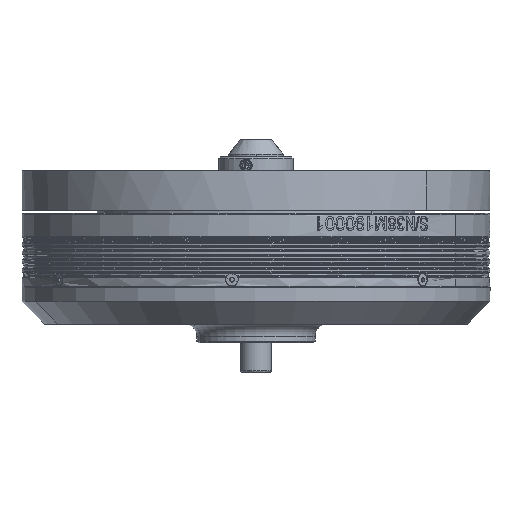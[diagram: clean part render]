
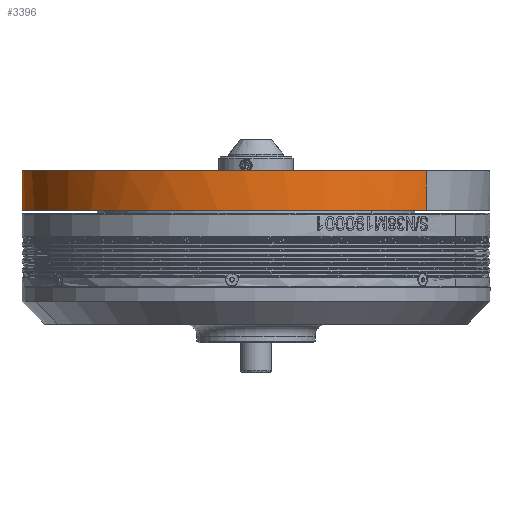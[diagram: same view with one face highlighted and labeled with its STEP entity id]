
A CAD part, left-side view. The second image highlights one B-rep face of the part: STEP entity #3396.
In plain terms, the highlighted cylindrical face has radius 75.1 mm (diameter 150.2 mm), a partial arc.
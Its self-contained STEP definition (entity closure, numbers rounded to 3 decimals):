
#1603 = LINE ( 'NONE', #69926, #39798 ) ;
#3396 = ADVANCED_FACE ( 'NONE', ( #105312 ), #21408, .T. ) ;
#3648 = ORIENTED_EDGE ( 'NONE', *, *, #93333, .T. ) ;
#4548 = CARTESIAN_POINT ( 'NONE',  ( 24.198, -71.264, 14. ) ) ;
#12319 = CARTESIAN_POINT ( 'NONE',  ( 72.698, -19.472, 14. ) ) ;
#12721 = CARTESIAN_POINT ( 'NONE',  ( 45.81, -59.713, 14. ) ) ;
#13943 = CARTESIAN_POINT ( 'NONE',  ( 19.472, -72.698, 14. ) ) ;
#14347 = CARTESIAN_POINT ( 'NONE',  ( -37.636, -65.174, 14. ) ) ;
#14758 = CARTESIAN_POINT ( 'NONE',  ( -75.1, -4.915, 14. ) ) ;
#15757 = DIRECTION ( 'NONE',  ( -1., 0., 0. ) ) ;
#21408 = CYLINDRICAL_SURFACE ( 'NONE', #86016, 75.1 ) ;
#22179 = CARTESIAN_POINT ( 'NONE',  ( 75.1, 0., 14. ) ) ;
#26162 = CARTESIAN_POINT ( 'NONE',  ( 75.1, 0., 14. ) ) ;
#27482 = VERTEX_POINT ( 'NONE', #115110 ) ;
#30809 = CARTESIAN_POINT ( 'NONE',  ( 4.915, -75.1, 14. ) ) ;
#31233 = CARTESIAN_POINT ( 'NONE',  ( 75.1, -4.915, 14. ) ) ;
#31649 = CARTESIAN_POINT ( 'NONE',  ( -4.915, -75.1, 14. ) ) ;
#32224 = ORIENTED_EDGE ( 'NONE', *, *, #116208, .T. ) ;
#33262 = CARTESIAN_POINT ( 'NONE',  ( -74.616, -9.83, 14. ) ) ;
#33581 = DIRECTION ( 'NONE',  ( -1., 0., 0. ) ) ;
#34090 = CARTESIAN_POINT ( 'NONE',  ( -67.502, -33.281, 14. ) ) ;
#39508 = ORIENTED_EDGE ( 'NONE', *, *, #84818, .F. ) ;
#39798 = VECTOR ( 'NONE', #79345, 1000. ) ;
#40698 = CARTESIAN_POINT ( 'NONE',  ( 67.502, -33.281, 14. ) ) ;
#41931 = CARTESIAN_POINT ( 'NONE',  ( 33.281, -67.502, 14. ) ) ;
#42750 = CARTESIAN_POINT ( 'NONE',  ( -19.472, -72.698, 14. ) ) ;
#44288 = DIRECTION ( 'NONE',  ( 0., 0., -1. ) ) ;
#44704 = B_SPLINE_CURVE_WITH_KNOTS ( 'NONE', 3,
 ( #22179, #31233, #69098, #12319, #96653, #40698, #97475, #106493, #60083, #60905, #12721, #87982, #41931, #4548, #13943, #50199, #30809, #31649, #88416, #42750, #98710, #109367, #14347, #71950, #80152, #118869, #52660, #62537, #34090, #72361, #118472, #33262, #14758, #53069 ),
 .UNSPECIFIED., .F., .F.,
 ( 4, 2, 2, 2, 2, 2, 2, 2, 2, 2, 2, 2, 2, 2, 2, 2, 4 ),
 ( 0., 0.062, 0.125, 0.187, 0.25, 0.312, 0.375, 0.438, 0.5, 0.563, 0.625, 0.688, 0.75, 0.812, 0.875, 0.937, 1. ),
 .UNSPECIFIED. ) ;
#45550 = EDGE_LOOP ( 'NONE', ( #39508, #3648, #32224, #120870 ) ) ;
#50199 = CARTESIAN_POINT ( 'NONE',  ( 9.83, -74.616, 14. ) ) ;
#51977 = CARTESIAN_POINT ( 'NONE',  ( 75.1, 0., 1.3 ) ) ;
#52660 = CARTESIAN_POINT ( 'NONE',  ( -59.713, -45.81, 14. ) ) ;
#53069 = CARTESIAN_POINT ( 'NONE',  ( -75.1, 0., 14. ) ) ;
#59526 = AXIS2_PLACEMENT_3D ( 'NONE', #109275, #44288, #33581 ) ;
#60083 = CARTESIAN_POINT ( 'NONE',  ( 56.579, -49.628, 14. ) ) ;
#60905 = CARTESIAN_POINT ( 'NONE',  ( 49.628, -56.579, 14. ) ) ;
#62537 = CARTESIAN_POINT ( 'NONE',  ( -65.174, -37.636, 14. ) ) ;
#69098 = CARTESIAN_POINT ( 'NONE',  ( 74.616, -9.83, 14. ) ) ;
#69926 = CARTESIAN_POINT ( 'NONE',  ( -75.1, 0., 39.1 ) ) ;
#71743 = CARTESIAN_POINT ( 'NONE',  ( 0., 0., 39.1 ) ) ;
#71950 = CARTESIAN_POINT ( 'NONE',  ( -45.81, -59.713, 14. ) ) ;
#72361 = CARTESIAN_POINT ( 'NONE',  ( -71.264, -24.198, 14. ) ) ;
#75108 = EDGE_CURVE ( 'NONE', #82015, #88440, #114852, .T. ) ;
#75277 = VERTEX_POINT ( 'NONE', #26162 ) ;
#77426 = VECTOR ( 'NONE', #108872, 1000. ) ;
#79345 = DIRECTION ( 'NONE',  ( 0., 0., -1. ) ) ;
#80152 = CARTESIAN_POINT ( 'NONE',  ( -49.628, -56.579, 14. ) ) ;
#82015 = VERTEX_POINT ( 'NONE', #51977 ) ;
#84818 = EDGE_CURVE ( 'NONE', #75277, #82015, #92106, .T. ) ;
#86016 = AXIS2_PLACEMENT_3D ( 'NONE', #71743, #109580, #15757 ) ;
#87982 = CARTESIAN_POINT ( 'NONE',  ( 37.636, -65.174, 14. ) ) ;
#88416 = CARTESIAN_POINT ( 'NONE',  ( -9.83, -74.616, 14. ) ) ;
#88440 = VERTEX_POINT ( 'NONE', #89340 ) ;
#89340 = CARTESIAN_POINT ( 'NONE',  ( -75.1, 0., 1.3 ) ) ;
#92106 = LINE ( 'NONE', #119190, #77426 ) ;
#93333 = EDGE_CURVE ( 'NONE', #75277, #27482, #44704, .T. ) ;
#96653 = CARTESIAN_POINT ( 'NONE',  ( 71.264, -24.198, 14. ) ) ;
#97475 = CARTESIAN_POINT ( 'NONE',  ( 65.174, -37.636, 14. ) ) ;
#98710 = CARTESIAN_POINT ( 'NONE',  ( -24.198, -71.264, 14. ) ) ;
#105312 = FACE_OUTER_BOUND ( 'NONE', #45550, .T. ) ;
#106493 = CARTESIAN_POINT ( 'NONE',  ( 59.713, -45.81, 14. ) ) ;
#108872 = DIRECTION ( 'NONE',  ( 0., 0., -1. ) ) ;
#109275 = CARTESIAN_POINT ( 'NONE',  ( 0., 0., 1.3 ) ) ;
#109367 = CARTESIAN_POINT ( 'NONE',  ( -33.281, -67.502, 14. ) ) ;
#109580 = DIRECTION ( 'NONE',  ( 0., 0., -1. ) ) ;
#114852 = CIRCLE ( 'NONE', #59526, 75.1 ) ;
#115110 = CARTESIAN_POINT ( 'NONE',  ( -75.1, 0., 14. ) ) ;
#116208 = EDGE_CURVE ( 'NONE', #27482, #88440, #1603, .T. ) ;
#118472 = CARTESIAN_POINT ( 'NONE',  ( -72.698, -19.472, 14. ) ) ;
#118869 = CARTESIAN_POINT ( 'NONE',  ( -56.579, -49.628, 14. ) ) ;
#119190 = CARTESIAN_POINT ( 'NONE',  ( 75.1, 0., 39.1 ) ) ;
#120870 = ORIENTED_EDGE ( 'NONE', *, *, #75108, .F. ) ;
